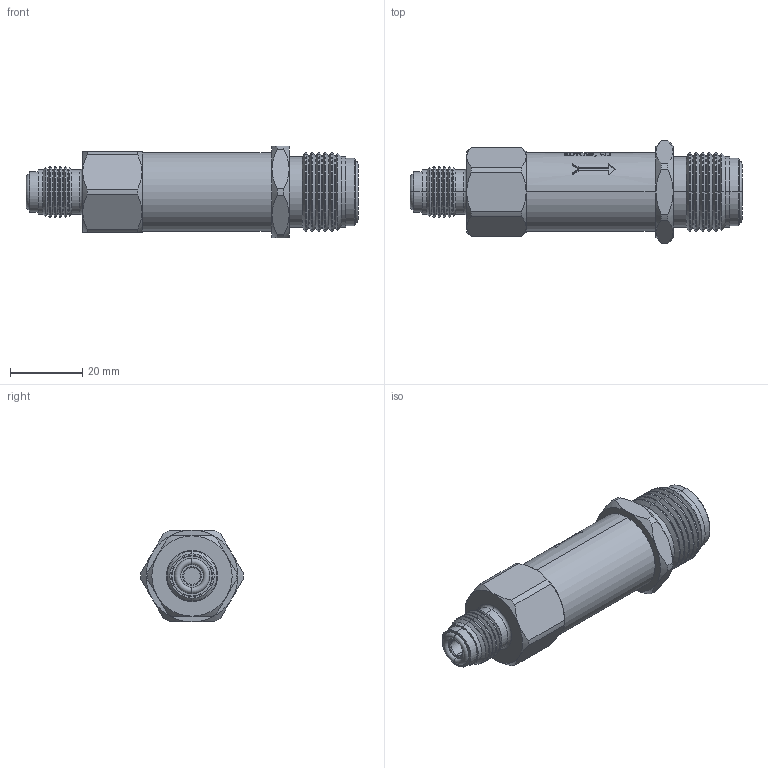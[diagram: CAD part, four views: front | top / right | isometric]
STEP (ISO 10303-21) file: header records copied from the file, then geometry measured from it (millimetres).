
FILE_DESCRIPTION (( 'STEP AP203' ), '1' );
FILE_NAME ('IRV8V-4V.STEP', '2020-03-19T13:44:51', ( '' ), ( '' ), 'SwSTEP 2.0', 'SolidWorks 2011', '' );
FILE_SCHEMA (( 'CONFIG_CONTROL_DESIGN' ));
Length unit declared in the file: inch
Products named in the file (2): IRV8V-4V; Part1^IRV8V-4V_CM
Assembly tree (1 placements, depth 2):
  IRV8V-4V
    Part1^IRV8V-4V_CM
Bounding box: 91.87 x 28.31 x 25.4 mm (x, y, z)
Volume: 29573.4 mm3; surface area: 8291.2 mm2
Topology: 1 solids, 1 shells, 405 faces, 984 edges, 611 vertices
Faces by surface type: plane 152, cylinder 91, cone 84, bspline 70, torus 8
Entity records: 16715 total; most frequent: CARTESIAN_POINT 7575, ORIENTED_EDGE 1964, DIRECTION 1690, EDGE_CURVE 982, AXIS2_PLACEMENT_3D 655, VERTEX_POINT 611, EDGE_LOOP 437, ADVANCED_FACE 405
